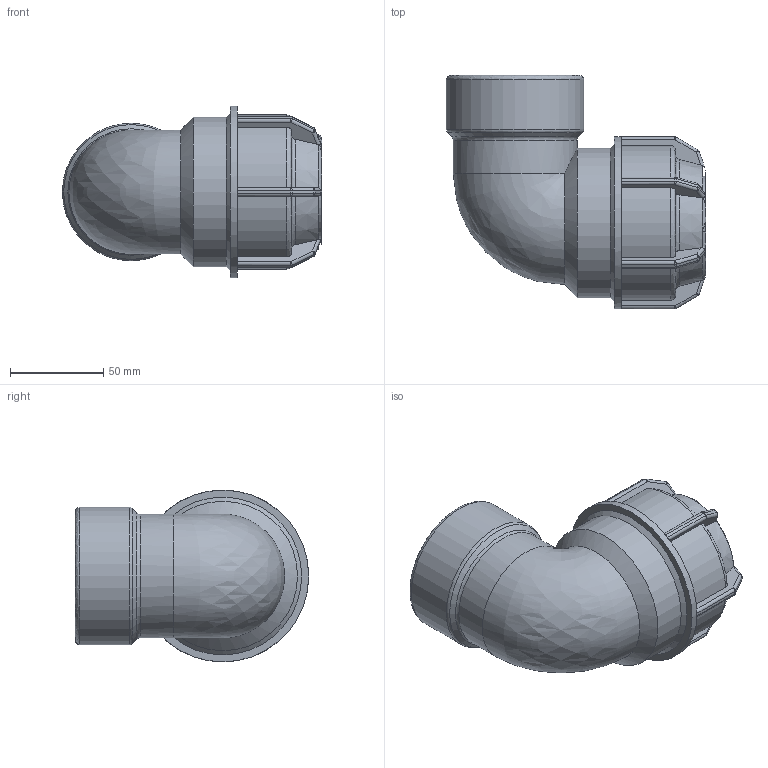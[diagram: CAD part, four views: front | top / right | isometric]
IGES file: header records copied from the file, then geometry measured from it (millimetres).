
Global section: file name: 141500050020.ipt; native system: Autodesk Inventor 2015; preprocessor: unknown; author: KIM; date: 20180409.131203; units: millimetre
Bounding box: 138.83 x 125 x 92 mm (x, y, z)
Volume: 393994 mm3; surface area: 76307.6 mm2
Topology: 1 solids, 1 shells, 214 faces, 515 edges, 303 vertices
Faces by surface type: plane 99, cylinder 58, sphere 24, revolution 23, cone 9, bspline 1
Full cylindrical faces by diameter (mm): 66.288 x1, 73.653 x1, 80 x1, 92 x1
